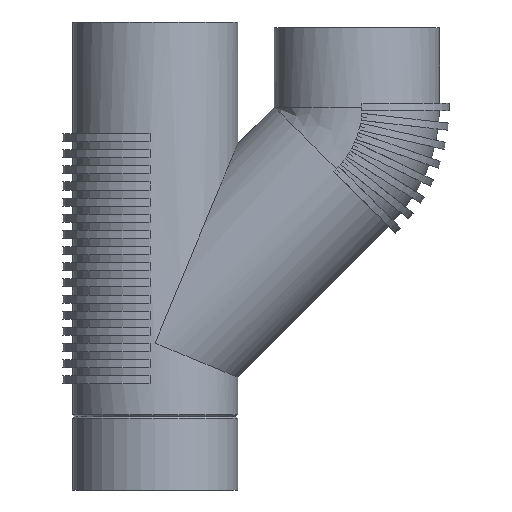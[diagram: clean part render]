
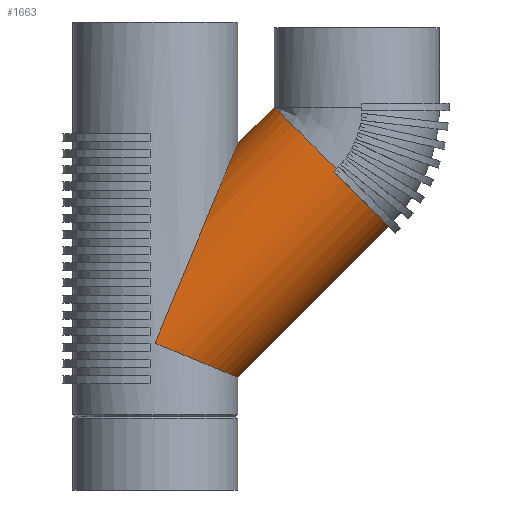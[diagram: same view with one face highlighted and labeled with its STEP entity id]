
A CAD part, front view. The second image highlights one B-rep face of the part: STEP entity #1663.
In plain terms, the highlighted cylindrical face has radius 45 mm (diameter 90 mm), a full revolution.
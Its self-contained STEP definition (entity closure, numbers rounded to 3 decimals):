
#16=ELLIPSE('',#1921,48.708,45.);
#17=ELLIPSE('',#1922,117.591,45.);
#48=LINE('',#2485,#98);
#49=LINE('',#2487,#99);
#98=VECTOR('',#1957,1.925);
#99=VECTOR('',#1958,1.925);
#190=CYLINDRICAL_SURFACE('',#1920,45.);
#210=FACE_BOUND('',#443,.T.);
#327=FACE_OUTER_BOUND('',#442,.T.);
#442=EDGE_LOOP('',(#1331,#1332,#1333,#1334,#1335));
#443=EDGE_LOOP('',(#1336,#1337));
#474=CIRCLE('',#1698,45.);
#534=CIRCLE('',#1795,45.);
#535=CIRCLE('',#1796,45.);
#612=VERTEX_POINT('',#2479);
#613=VERTEX_POINT('',#2480);
#614=VERTEX_POINT('',#2484);
#615=VERTEX_POINT('',#2486);
#681=VERTEX_POINT('',#3074);
#752=VERTEX_POINT('',#3304);
#753=VERTEX_POINT('',#3305);
#761=EDGE_CURVE('',#612,#613,#474,.T.);
#763=EDGE_CURVE('',#613,#614,#48,.T.);
#764=EDGE_CURVE('',#615,#612,#49,.T.);
#867=EDGE_CURVE('',#681,#614,#534,.T.);
#868=EDGE_CURVE('',#615,#681,#535,.T.);
#972=EDGE_CURVE('',#752,#753,#16,.T.);
#973=EDGE_CURVE('',#753,#752,#17,.T.);
#1331=ORIENTED_EDGE('',*,*,#763,.T.);
#1332=ORIENTED_EDGE('',*,*,#867,.F.);
#1333=ORIENTED_EDGE('',*,*,#868,.F.);
#1334=ORIENTED_EDGE('',*,*,#764,.T.);
#1335=ORIENTED_EDGE('',*,*,#761,.T.);
#1336=ORIENTED_EDGE('',*,*,#972,.F.);
#1337=ORIENTED_EDGE('',*,*,#973,.F.);
#1663=ADVANCED_FACE('',(#327,#210),#190,.T.);
#1698=AXIS2_PLACEMENT_3D('',#2481,#1951,#1952);
#1795=AXIS2_PLACEMENT_3D('',#3076,#2163,#2164);
#1796=AXIS2_PLACEMENT_3D('',#3077,#2165,#2166);
#1920=AXIS2_PLACEMENT_3D('',#3303,#2445,#2446);
#1921=AXIS2_PLACEMENT_3D('',#3306,#2447,#2448);
#1922=AXIS2_PLACEMENT_3D('',#3307,#2449,#2450);
#1951=DIRECTION('center_axis',(-0.707,0.,-0.707));
#1952=DIRECTION('ref_axis',(0.707,0.,-0.707));
#1957=DIRECTION('',(0.707,0.,0.707));
#1958=DIRECTION('',(-0.707,0.,-0.707));
#2163=DIRECTION('center_axis',(0.707,0.,0.707));
#2164=DIRECTION('ref_axis',(0.707,0.,-0.707));
#2165=DIRECTION('center_axis',(0.707,0.,0.707));
#2166=DIRECTION('ref_axis',(0.707,0.,-0.707));
#2445=DIRECTION('center_axis',(-0.707,0.,-0.707));
#2446=DIRECTION('ref_axis',(0.707,0.,-0.707));
#2447=DIRECTION('center_axis',(-0.383,0.,-0.924));
#2448=DIRECTION('ref_axis',(0.924,0.,-0.383));
#2449=DIRECTION('center_axis',(-0.924,0.,0.383));
#2450=DIRECTION('ref_axis',(-0.383,0.,-0.924));
#2479=CARTESIAN_POINT('',(97.403,44.916,173.546));
#2480=CARTESIAN_POINT('',(97.403,-44.916,173.546));
#2481=CARTESIAN_POINT('Origin',(95.459,0.,175.491));
#2484=CARTESIAN_POINT('',(98.764,-44.916,174.907));
#2485=CARTESIAN_POINT('',(98.764,-44.916,174.907));
#2486=CARTESIAN_POINT('',(98.764,44.916,174.907));
#2487=CARTESIAN_POINT('',(98.764,44.916,174.907));
#3074=CARTESIAN_POINT('',(65.,0.,208.672));
#3076=CARTESIAN_POINT('Origin',(96.82,0.,176.852));
#3077=CARTESIAN_POINT('Origin',(96.82,0.,176.852));
#3303=CARTESIAN_POINT('Origin',(96.82,0.,176.852));
#3304=CARTESIAN_POINT('',(0.,45.,80.032));
#3305=CARTESIAN_POINT('',(0.,-45.,80.032));
#3306=CARTESIAN_POINT('Origin',(0.,0.,80.032));
#3307=CARTESIAN_POINT('Origin',(0.,0.,80.032));
